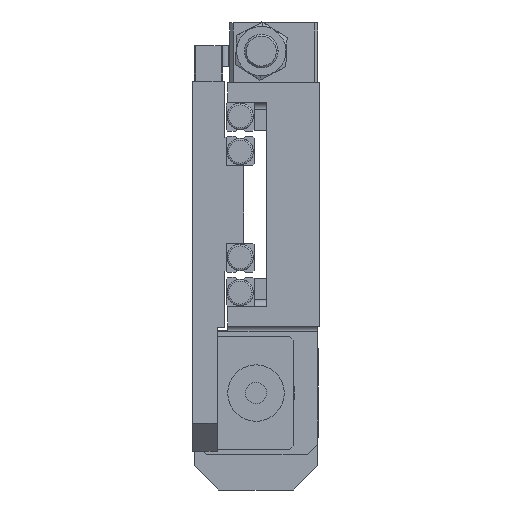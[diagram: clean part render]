
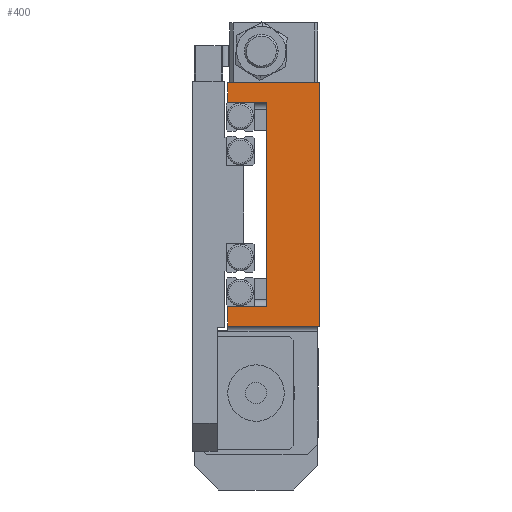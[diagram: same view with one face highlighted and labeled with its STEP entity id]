
A CAD part, left-side view. The second image highlights one B-rep face of the part: STEP entity #400.
In plain terms, the highlighted planar face has unit normal (-1, 0, 0).
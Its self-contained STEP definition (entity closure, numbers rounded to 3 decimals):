
#311 = LINE ( 'NONE', #15165, #15701 ) ;
#346 = EDGE_CURVE ( 'NONE', #8280, #4692, #4345, .T. ) ;
#400 = ADVANCED_FACE ( 'NONE', ( #1642 ), #6937, .F. ) ;
#437 = DIRECTION ( 'NONE',  ( 0., 0., 1. ) ) ;
#1053 = ORIENTED_EDGE ( 'NONE', *, *, #8215, .F. ) ;
#1487 = VECTOR ( 'NONE', #17101, 1000. ) ;
#1642 = FACE_OUTER_BOUND ( 'NONE', #12474, .T. ) ;
#1824 = CARTESIAN_POINT ( 'NONE',  ( -65., 26., 34.5 ) ) ;
#1974 = EDGE_CURVE ( 'NONE', #4692, #10205, #16098, .T. ) ;
#2096 = LINE ( 'NONE', #4766, #1487 ) ;
#2112 = LINE ( 'NONE', #15590, #8578 ) ;
#2466 = ORIENTED_EDGE ( 'NONE', *, *, #15531, .F. ) ;
#3422 = ORIENTED_EDGE ( 'NONE', *, *, #11191, .F. ) ;
#3499 = DIRECTION ( 'NONE',  ( 0., -1., 0. ) ) ;
#4345 = LINE ( 'NONE', #10096, #16070 ) ;
#4424 = DIRECTION ( 'NONE',  ( 1., 0., 0. ) ) ;
#4692 = VERTEX_POINT ( 'NONE', #14026 ) ;
#4766 = CARTESIAN_POINT ( 'NONE',  ( -65., 15., -21. ) ) ;
#5262 = VECTOR ( 'NONE', #6467, 1000. ) ;
#6037 = CARTESIAN_POINT ( 'NONE',  ( -65., 18.5, 29. ) ) ;
#6422 = EDGE_CURVE ( 'NONE', #17764, #14696, #16987, .T. ) ;
#6467 = DIRECTION ( 'NONE',  ( 0., 0., 1. ) ) ;
#6937 = PLANE ( 'NONE',  #13187 ) ;
#7107 = ORIENTED_EDGE ( 'NONE', *, *, #15099, .T. ) ;
#7633 = DIRECTION ( 'NONE',  ( 0., 1., 0. ) ) ;
#7826 = CARTESIAN_POINT ( 'NONE',  ( -65., 26., -34.5 ) ) ;
#8072 = ORIENTED_EDGE ( 'NONE', *, *, #1974, .T. ) ;
#8153 = CARTESIAN_POINT ( 'NONE',  ( -65., 15., 29. ) ) ;
#8215 = EDGE_CURVE ( 'NONE', #12238, #17764, #11693, .T. ) ;
#8280 = VERTEX_POINT ( 'NONE', #7826 ) ;
#8423 = DIRECTION ( 'NONE',  ( 0., 0., 1. ) ) ;
#8502 = VERTEX_POINT ( 'NONE', #12032 ) ;
#8578 = VECTOR ( 'NONE', #12878, 1000. ) ;
#9167 = ORIENTED_EDGE ( 'NONE', *, *, #6422, .F. ) ;
#9707 = ORIENTED_EDGE ( 'NONE', *, *, #11853, .F. ) ;
#9832 = DIRECTION ( 'NONE',  ( 0., -1., 0. ) ) ;
#10096 = CARTESIAN_POINT ( 'NONE',  ( -65., 26., -34.5 ) ) ;
#10205 = VERTEX_POINT ( 'NONE', #12891 ) ;
#10428 = CARTESIAN_POINT ( 'NONE',  ( -65., 26., 34.5 ) ) ;
#10654 = VECTOR ( 'NONE', #3499, 1000. ) ;
#11137 = CARTESIAN_POINT ( 'NONE',  ( -65., 26., 34.5 ) ) ;
#11166 = DIRECTION ( 'NONE',  ( 0., 0., -1. ) ) ;
#11191 = EDGE_CURVE ( 'NONE', #15587, #12238, #2096, .T. ) ;
#11693 = LINE ( 'NONE', #6037, #12725 ) ;
#11853 = EDGE_CURVE ( 'NONE', #14696, #10205, #17171, .T. ) ;
#12032 = CARTESIAN_POINT ( 'NONE',  ( -65., 26., -29. ) ) ;
#12238 = VERTEX_POINT ( 'NONE', #8153 ) ;
#12474 = EDGE_LOOP ( 'NONE', ( #3422, #7107, #2466, #15256, #8072, #9707, #9167, #1053 ) ) ;
#12725 = VECTOR ( 'NONE', #7633, 1000. ) ;
#12878 = DIRECTION ( 'NONE',  ( 0., 1., 0. ) ) ;
#12891 = CARTESIAN_POINT ( 'NONE',  ( -65., 0., 34.5 ) ) ;
#13187 = AXIS2_PLACEMENT_3D ( 'NONE', #1824, #4424, #11166 ) ;
#13395 = CARTESIAN_POINT ( 'NONE',  ( -65., 0., 34.5 ) ) ;
#13551 = CARTESIAN_POINT ( 'NONE',  ( -65., 26., 29. ) ) ;
#14026 = CARTESIAN_POINT ( 'NONE',  ( -65., 0., -34.5 ) ) ;
#14696 = VERTEX_POINT ( 'NONE', #16801 ) ;
#15099 = EDGE_CURVE ( 'NONE', #15587, #8502, #2112, .T. ) ;
#15165 = CARTESIAN_POINT ( 'NONE',  ( -65., 26., 34.5 ) ) ;
#15256 = ORIENTED_EDGE ( 'NONE', *, *, #346, .T. ) ;
#15531 = EDGE_CURVE ( 'NONE', #8280, #8502, #311, .T. ) ;
#15587 = VERTEX_POINT ( 'NONE', #17786 ) ;
#15590 = CARTESIAN_POINT ( 'NONE',  ( -65., 18.5, -29. ) ) ;
#15701 = VECTOR ( 'NONE', #8423, 1000. ) ;
#16070 = VECTOR ( 'NONE', #9832, 1000. ) ;
#16098 = LINE ( 'NONE', #13395, #5262 ) ;
#16801 = CARTESIAN_POINT ( 'NONE',  ( -65., 26., 34.5 ) ) ;
#16987 = LINE ( 'NONE', #11137, #17323 ) ;
#17101 = DIRECTION ( 'NONE',  ( 0., 0., 1. ) ) ;
#17171 = LINE ( 'NONE', #10428, #10654 ) ;
#17323 = VECTOR ( 'NONE', #437, 1000. ) ;
#17764 = VERTEX_POINT ( 'NONE', #13551 ) ;
#17786 = CARTESIAN_POINT ( 'NONE',  ( -65., 15., -29. ) ) ;
